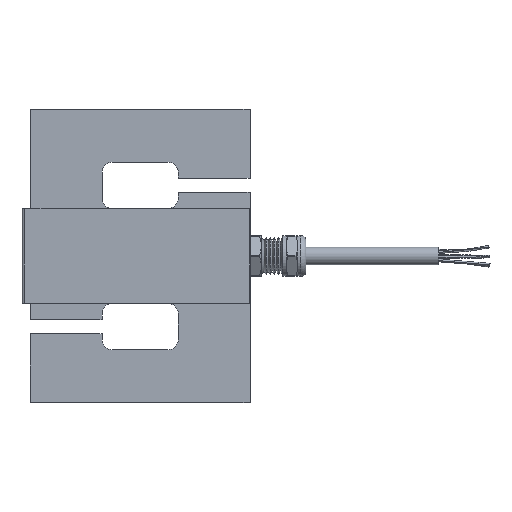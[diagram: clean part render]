
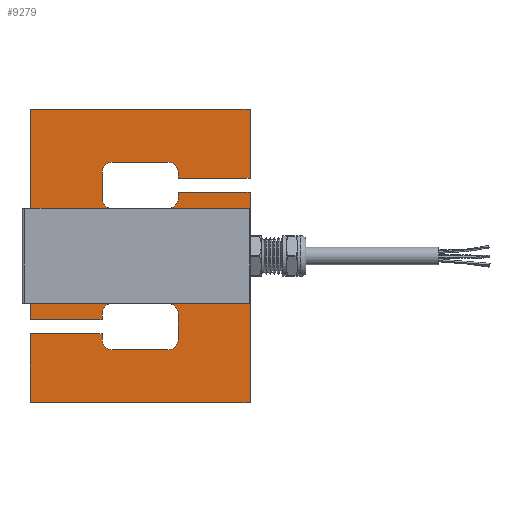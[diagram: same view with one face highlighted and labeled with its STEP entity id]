
A CAD part, top view. The second image highlights one B-rep face of the part: STEP entity #9279.
In plain terms, the highlighted planar face has unit normal (0, 0, 1).
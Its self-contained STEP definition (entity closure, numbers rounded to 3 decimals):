
#773=PLANE('',#10079);
#1119=FACE_OUTER_BOUND('',#1742,.T.);
#1742=EDGE_LOOP('',(#6867,#6868,#6869,#6870,#6871,#6872,#6873,#6874,#6875,
#6876,#6877,#6878,#6879,#6880,#6881,#6882,#6883,#6884,#6885,#6886,#6887,
#6888,#6889,#6890,#6891,#6892,#6893,#6894));
#2447=LINE('',#14078,#3096);
#2448=LINE('',#14080,#3097);
#2449=LINE('',#14082,#3098);
#2450=LINE('',#14086,#3099);
#2451=LINE('',#14090,#3100);
#2452=LINE('',#14094,#3101);
#2453=LINE('',#14098,#3102);
#2454=LINE('',#14100,#3103);
#2455=LINE('',#14102,#3104);
#2456=LINE('',#14104,#3105);
#2457=LINE('',#14106,#3106);
#2458=LINE('',#14108,#3107);
#2459=LINE('',#14110,#3108);
#2460=LINE('',#14114,#3109);
#2461=LINE('',#14118,#3110);
#2462=LINE('',#14122,#3111);
#2463=LINE('',#14126,#3112);
#2464=LINE('',#14128,#3113);
#2465=LINE('',#14130,#3114);
#2466=LINE('',#14131,#3115);
#3096=VECTOR('',#11275,1000.);
#3097=VECTOR('',#11276,1000.);
#3098=VECTOR('',#11277,1000.);
#3099=VECTOR('',#11280,1000.);
#3100=VECTOR('',#11283,1000.);
#3101=VECTOR('',#11286,1000.);
#3102=VECTOR('',#11289,1000.);
#3103=VECTOR('',#11290,1000.);
#3104=VECTOR('',#11291,1000.);
#3105=VECTOR('',#11292,1000.);
#3106=VECTOR('',#11293,1000.);
#3107=VECTOR('',#11294,1000.);
#3108=VECTOR('',#11295,1000.);
#3109=VECTOR('',#11298,1000.);
#3110=VECTOR('',#11301,1000.);
#3111=VECTOR('',#11304,1000.);
#3112=VECTOR('',#11307,1000.);
#3113=VECTOR('',#11308,1000.);
#3114=VECTOR('',#11309,1000.);
#3115=VECTOR('',#11310,1000.);
#3801=CIRCLE('',#10080,3.5);
#3802=CIRCLE('',#10081,3.5);
#3803=CIRCLE('',#10082,3.5);
#3804=CIRCLE('',#10083,3.5);
#3805=CIRCLE('',#10084,3.5);
#3806=CIRCLE('',#10085,3.5);
#3807=CIRCLE('',#10086,3.5);
#3808=CIRCLE('',#10087,3.5);
#4209=VERTEX_POINT('',#14076);
#4210=VERTEX_POINT('',#14077);
#4211=VERTEX_POINT('',#14079);
#4212=VERTEX_POINT('',#14081);
#4213=VERTEX_POINT('',#14083);
#4214=VERTEX_POINT('',#14085);
#4215=VERTEX_POINT('',#14087);
#4216=VERTEX_POINT('',#14089);
#4217=VERTEX_POINT('',#14091);
#4218=VERTEX_POINT('',#14093);
#4219=VERTEX_POINT('',#14095);
#4220=VERTEX_POINT('',#14097);
#4221=VERTEX_POINT('',#14099);
#4222=VERTEX_POINT('',#14101);
#4223=VERTEX_POINT('',#14103);
#4224=VERTEX_POINT('',#14105);
#4225=VERTEX_POINT('',#14107);
#4226=VERTEX_POINT('',#14109);
#4227=VERTEX_POINT('',#14111);
#4228=VERTEX_POINT('',#14113);
#4229=VERTEX_POINT('',#14115);
#4230=VERTEX_POINT('',#14117);
#4231=VERTEX_POINT('',#14119);
#4232=VERTEX_POINT('',#14121);
#4233=VERTEX_POINT('',#14123);
#4234=VERTEX_POINT('',#14125);
#4235=VERTEX_POINT('',#14127);
#4236=VERTEX_POINT('',#14129);
#5215=EDGE_CURVE('',#4209,#4210,#2447,.T.);
#5216=EDGE_CURVE('',#4210,#4211,#2448,.T.);
#5217=EDGE_CURVE('',#4211,#4212,#2449,.T.);
#5218=EDGE_CURVE('',#4212,#4213,#3801,.T.);
#5219=EDGE_CURVE('',#4213,#4214,#2450,.T.);
#5220=EDGE_CURVE('',#4214,#4215,#3802,.T.);
#5221=EDGE_CURVE('',#4215,#4216,#2451,.T.);
#5222=EDGE_CURVE('',#4216,#4217,#3803,.T.);
#5223=EDGE_CURVE('',#4217,#4218,#2452,.T.);
#5224=EDGE_CURVE('',#4218,#4219,#3804,.T.);
#5225=EDGE_CURVE('',#4219,#4220,#2453,.T.);
#5226=EDGE_CURVE('',#4220,#4221,#2454,.T.);
#5227=EDGE_CURVE('',#4221,#4222,#2455,.T.);
#5228=EDGE_CURVE('',#4222,#4223,#2456,.T.);
#5229=EDGE_CURVE('',#4224,#4223,#2457,.T.);
#5230=EDGE_CURVE('',#4224,#4225,#2458,.T.);
#5231=EDGE_CURVE('',#4225,#4226,#2459,.T.);
#5232=EDGE_CURVE('',#4226,#4227,#3805,.T.);
#5233=EDGE_CURVE('',#4227,#4228,#2460,.T.);
#5234=EDGE_CURVE('',#4228,#4229,#3806,.T.);
#5235=EDGE_CURVE('',#4229,#4230,#2461,.T.);
#5236=EDGE_CURVE('',#4230,#4231,#3807,.T.);
#5237=EDGE_CURVE('',#4231,#4232,#2462,.T.);
#5238=EDGE_CURVE('',#4232,#4233,#3808,.T.);
#5239=EDGE_CURVE('',#4233,#4234,#2463,.T.);
#5240=EDGE_CURVE('',#4234,#4235,#2464,.T.);
#5241=EDGE_CURVE('',#4236,#4235,#2465,.T.);
#5242=EDGE_CURVE('',#4209,#4236,#2466,.T.);
#6867=ORIENTED_EDGE('',*,*,#5215,.T.);
#6868=ORIENTED_EDGE('',*,*,#5216,.T.);
#6869=ORIENTED_EDGE('',*,*,#5217,.T.);
#6870=ORIENTED_EDGE('',*,*,#5218,.T.);
#6871=ORIENTED_EDGE('',*,*,#5219,.T.);
#6872=ORIENTED_EDGE('',*,*,#5220,.T.);
#6873=ORIENTED_EDGE('',*,*,#5221,.T.);
#6874=ORIENTED_EDGE('',*,*,#5222,.T.);
#6875=ORIENTED_EDGE('',*,*,#5223,.T.);
#6876=ORIENTED_EDGE('',*,*,#5224,.T.);
#6877=ORIENTED_EDGE('',*,*,#5225,.T.);
#6878=ORIENTED_EDGE('',*,*,#5226,.T.);
#6879=ORIENTED_EDGE('',*,*,#5227,.T.);
#6880=ORIENTED_EDGE('',*,*,#5228,.T.);
#6881=ORIENTED_EDGE('',*,*,#5229,.F.);
#6882=ORIENTED_EDGE('',*,*,#5230,.T.);
#6883=ORIENTED_EDGE('',*,*,#5231,.T.);
#6884=ORIENTED_EDGE('',*,*,#5232,.T.);
#6885=ORIENTED_EDGE('',*,*,#5233,.T.);
#6886=ORIENTED_EDGE('',*,*,#5234,.T.);
#6887=ORIENTED_EDGE('',*,*,#5235,.T.);
#6888=ORIENTED_EDGE('',*,*,#5236,.T.);
#6889=ORIENTED_EDGE('',*,*,#5237,.T.);
#6890=ORIENTED_EDGE('',*,*,#5238,.T.);
#6891=ORIENTED_EDGE('',*,*,#5239,.T.);
#6892=ORIENTED_EDGE('',*,*,#5240,.T.);
#6893=ORIENTED_EDGE('',*,*,#5241,.F.);
#6894=ORIENTED_EDGE('',*,*,#5242,.F.);
#9279=ADVANCED_FACE('',(#1119),#773,.T.);
#10079=AXIS2_PLACEMENT_3D('',#14075,#11273,#11274);
#10080=AXIS2_PLACEMENT_3D('',#14084,#11278,#11279);
#10081=AXIS2_PLACEMENT_3D('',#14088,#11281,#11282);
#10082=AXIS2_PLACEMENT_3D('',#14092,#11284,#11285);
#10083=AXIS2_PLACEMENT_3D('',#14096,#11287,#11288);
#10084=AXIS2_PLACEMENT_3D('',#14112,#11296,#11297);
#10085=AXIS2_PLACEMENT_3D('',#14116,#11299,#11300);
#10086=AXIS2_PLACEMENT_3D('',#14120,#11302,#11303);
#10087=AXIS2_PLACEMENT_3D('',#14124,#11305,#11306);
#11273=DIRECTION('center_axis',(0.,0.,1.));
#11274=DIRECTION('ref_axis',(1.,0.,0.));
#11275=DIRECTION('',(0.,-1.,0.));
#11276=DIRECTION('',(1.,0.,0.));
#11277=DIRECTION('',(0.,1.,0.));
#11278=DIRECTION('center_axis',(0.,0.,-1.));
#11279=DIRECTION('ref_axis',(1.,0.,0.));
#11280=DIRECTION('',(1.,0.,0.));
#11281=DIRECTION('center_axis',(0.,0.,-1.));
#11282=DIRECTION('ref_axis',(-1.,0.,0.));
#11283=DIRECTION('',(0.,-1.,0.));
#11284=DIRECTION('center_axis',(0.,0.,-1.));
#11285=DIRECTION('ref_axis',(1.,0.,0.));
#11286=DIRECTION('',(-1.,0.,0.));
#11287=DIRECTION('center_axis',(0.,0.,-1.));
#11288=DIRECTION('ref_axis',(1.,0.,0.));
#11289=DIRECTION('',(0.,1.,0.));
#11290=DIRECTION('',(-1.,0.,0.));
#11291=DIRECTION('',(0.,-1.,0.));
#11292=DIRECTION('',(1.,0.,0.));
#11293=DIRECTION('',(0.,-1.,0.));
#11294=DIRECTION('',(-1.,0.,0.));
#11295=DIRECTION('',(0.,-1.,0.));
#11296=DIRECTION('center_axis',(0.,0.,-1.));
#11297=DIRECTION('ref_axis',(1.,0.,0.));
#11298=DIRECTION('',(-1.,0.,0.));
#11299=DIRECTION('center_axis',(0.,0.,-1.));
#11300=DIRECTION('ref_axis',(1.,0.,0.));
#11301=DIRECTION('',(0.,1.,0.));
#11302=DIRECTION('center_axis',(0.,0.,-1.));
#11303=DIRECTION('ref_axis',(-1.,0.,0.));
#11304=DIRECTION('',(1.,0.,0.));
#11305=DIRECTION('center_axis',(0.,0.,-1.));
#11306=DIRECTION('ref_axis',(-1.,0.,0.));
#11307=DIRECTION('',(0.,-1.,0.));
#11308=DIRECTION('',(1.,0.,0.));
#11309=DIRECTION('',(0.,-1.,0.));
#11310=DIRECTION('',(1.,0.,0.));
#14075=CARTESIAN_POINT('Origin',(-15.,43.269,52.1));
#14076=CARTESIAN_POINT('',(-52.5,93.269,52.1));
#14077=CARTESIAN_POINT('',(-52.5,21.569,52.1));
#14078=CARTESIAN_POINT('',(-52.5,93.269,52.1));
#14079=CARTESIAN_POINT('',(-28.,21.569,52.1));
#14080=CARTESIAN_POINT('',(-28.,21.569,52.1));
#14081=CARTESIAN_POINT('',(-28.,23.569,52.1));
#14082=CARTESIAN_POINT('',(-28.,21.569,52.1));
#14083=CARTESIAN_POINT('',(-24.5,27.069,52.1));
#14084=CARTESIAN_POINT('Origin',(-24.5,23.569,52.1));
#14085=CARTESIAN_POINT('',(-5.5,27.069,52.1));
#14086=CARTESIAN_POINT('',(-24.5,27.069,52.1));
#14087=CARTESIAN_POINT('',(-2.,23.569,52.1));
#14088=CARTESIAN_POINT('Origin',(-5.5,23.569,52.1));
#14089=CARTESIAN_POINT('',(-2.,14.769,52.1));
#14090=CARTESIAN_POINT('',(-2.,23.569,52.1));
#14091=CARTESIAN_POINT('',(-5.5,11.269,52.1));
#14092=CARTESIAN_POINT('Origin',(-5.5,14.769,52.1));
#14093=CARTESIAN_POINT('',(-24.5,11.269,52.1));
#14094=CARTESIAN_POINT('',(-5.5,11.269,52.1));
#14095=CARTESIAN_POINT('',(-28.,14.769,52.1));
#14096=CARTESIAN_POINT('Origin',(-24.5,14.769,52.1));
#14097=CARTESIAN_POINT('',(-28.,16.769,52.1));
#14098=CARTESIAN_POINT('',(-28.,14.769,52.1));
#14099=CARTESIAN_POINT('',(-52.5,16.769,52.1));
#14100=CARTESIAN_POINT('',(-28.,16.769,52.1));
#14101=CARTESIAN_POINT('',(-52.5,-6.731,52.1));
#14102=CARTESIAN_POINT('',(-52.5,93.269,52.1));
#14103=CARTESIAN_POINT('',(22.5,-6.731,52.1));
#14104=CARTESIAN_POINT('',(22.5,-6.731,52.1));
#14105=CARTESIAN_POINT('',(22.5,64.969,52.1));
#14106=CARTESIAN_POINT('',(22.5,93.269,52.1));
#14107=CARTESIAN_POINT('',(-2.,64.969,52.1));
#14108=CARTESIAN_POINT('',(22.5,64.969,52.1));
#14109=CARTESIAN_POINT('',(-2.,62.969,52.1));
#14110=CARTESIAN_POINT('',(-2.,62.969,52.1));
#14111=CARTESIAN_POINT('',(-5.5,59.469,52.1));
#14112=CARTESIAN_POINT('Origin',(-5.5,62.969,52.1));
#14113=CARTESIAN_POINT('',(-24.5,59.469,52.1));
#14114=CARTESIAN_POINT('',(-24.5,59.469,52.1));
#14115=CARTESIAN_POINT('',(-28.,62.969,52.1));
#14116=CARTESIAN_POINT('Origin',(-24.5,62.969,52.1));
#14117=CARTESIAN_POINT('',(-28.,71.769,52.1));
#14118=CARTESIAN_POINT('',(-28.,71.769,52.1));
#14119=CARTESIAN_POINT('',(-24.5,75.269,52.1));
#14120=CARTESIAN_POINT('Origin',(-24.5,71.769,52.1));
#14121=CARTESIAN_POINT('',(-5.5,75.269,52.1));
#14122=CARTESIAN_POINT('',(-5.5,75.269,52.1));
#14123=CARTESIAN_POINT('',(-2.,71.769,52.1));
#14124=CARTESIAN_POINT('Origin',(-5.5,71.769,52.1));
#14125=CARTESIAN_POINT('',(-2.,69.769,52.1));
#14126=CARTESIAN_POINT('',(-2.,69.769,52.1));
#14127=CARTESIAN_POINT('',(22.5,69.769,52.1));
#14128=CARTESIAN_POINT('',(22.5,69.769,52.1));
#14129=CARTESIAN_POINT('',(22.5,93.269,52.1));
#14130=CARTESIAN_POINT('',(22.5,93.269,52.1));
#14131=CARTESIAN_POINT('',(22.5,93.269,52.1));
